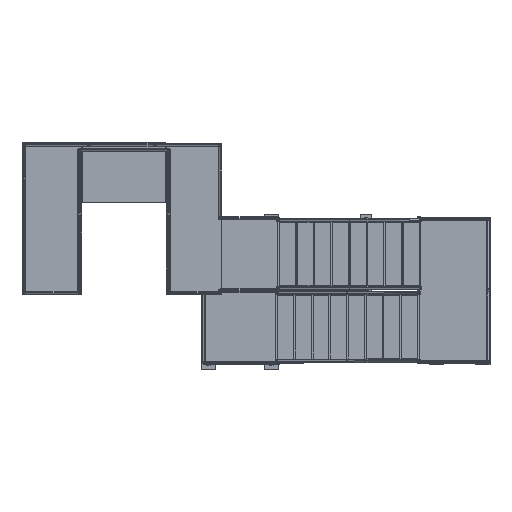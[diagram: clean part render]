
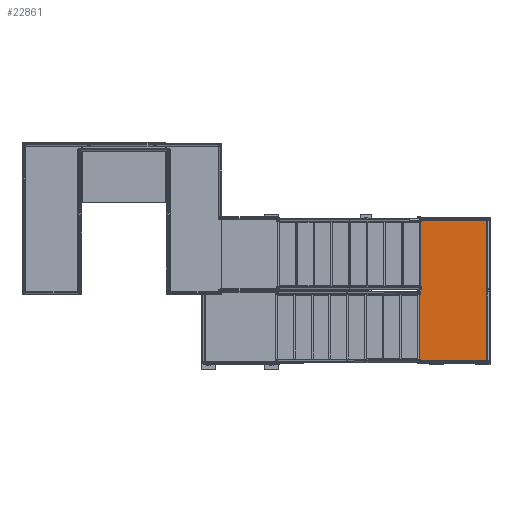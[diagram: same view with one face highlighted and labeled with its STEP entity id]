
A CAD part, top view. The second image highlights one B-rep face of the part: STEP entity #22861.
In plain terms, the highlighted planar face has unit normal (0, 0, 1).
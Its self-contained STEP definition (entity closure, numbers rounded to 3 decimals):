
#2159 = LINE ( 'NONE', #19796, #29193 ) ;
#3362 = AXIS2_PLACEMENT_3D ( 'NONE', #27649, #45311, #53389 ) ;
#3840 = EDGE_CURVE ( 'NONE', #19731, #52777, #56041, .T. ) ;
#4759 = PLANE ( 'NONE',  #3362 ) ;
#6236 = VECTOR ( 'NONE', #21986, 1000. ) ;
#6457 = VECTOR ( 'NONE', #13284, 1000. ) ;
#7618 = CARTESIAN_POINT ( 'NONE',  ( 9270., -2668., 3000. ) ) ;
#10211 = FACE_OUTER_BOUND ( 'NONE', #43671, .T. ) ;
#12759 = LINE ( 'NONE', #30676, #6236 ) ;
#13284 = DIRECTION ( 'NONE',  ( 0., 1., 0. ) ) ;
#15199 = DIRECTION ( 'NONE',  ( 1., 0., 0. ) ) ;
#17953 = VERTEX_POINT ( 'NONE', #35395 ) ;
#19731 = VERTEX_POINT ( 'NONE', #7618 ) ;
#19796 = CARTESIAN_POINT ( 'NONE',  ( 9770., -602., 3000. ) ) ;
#21654 = ORIENTED_EDGE ( 'NONE', *, *, #23573, .F. ) ;
#21926 = CARTESIAN_POINT ( 'NONE',  ( 9270., -1635., 3000. ) ) ;
#21986 = DIRECTION ( 'NONE',  ( -1., 0., 0. ) ) ;
#22861 = ADVANCED_FACE ( 'NONE', ( #10211 ), #4759, .T. ) ;
#23573 = EDGE_CURVE ( 'NONE', #52777, #17953, #2159, .T. ) ;
#25656 = VECTOR ( 'NONE', #38981, 1000. ) ;
#27649 = CARTESIAN_POINT ( 'NONE',  ( 9770., -1635., 3000. ) ) ;
#29193 = VECTOR ( 'NONE', #15199, 1000. ) ;
#30676 = CARTESIAN_POINT ( 'NONE',  ( 9770., -2668., 3000. ) ) ;
#31480 = CARTESIAN_POINT ( 'NONE',  ( 9270., -602., 3000. ) ) ;
#34511 = CARTESIAN_POINT ( 'NONE',  ( 10270., -1635., 3000. ) ) ;
#35395 = CARTESIAN_POINT ( 'NONE',  ( 10270., -602., 3000. ) ) ;
#37384 = ORIENTED_EDGE ( 'NONE', *, *, #41887, .F. ) ;
#38346 = ORIENTED_EDGE ( 'NONE', *, *, #41998, .F. ) ;
#38981 = DIRECTION ( 'NONE',  ( 0., -1., 0. ) ) ;
#40341 = ORIENTED_EDGE ( 'NONE', *, *, #3840, .F. ) ;
#41887 = EDGE_CURVE ( 'NONE', #17953, #44248, #48767, .T. ) ;
#41998 = EDGE_CURVE ( 'NONE', #44248, #19731, #12759, .T. ) ;
#43671 = EDGE_LOOP ( 'NONE', ( #38346, #37384, #21654, #40341 ) ) ;
#43726 = CARTESIAN_POINT ( 'NONE',  ( 10270., -2668., 3000. ) ) ;
#44248 = VERTEX_POINT ( 'NONE', #43726 ) ;
#45311 = DIRECTION ( 'NONE',  ( 0., 0., 1. ) ) ;
#48767 = LINE ( 'NONE', #34511, #25656 ) ;
#52777 = VERTEX_POINT ( 'NONE', #31480 ) ;
#53389 = DIRECTION ( 'NONE',  ( 1., 0., 0. ) ) ;
#56041 = LINE ( 'NONE', #21926, #6457 ) ;
